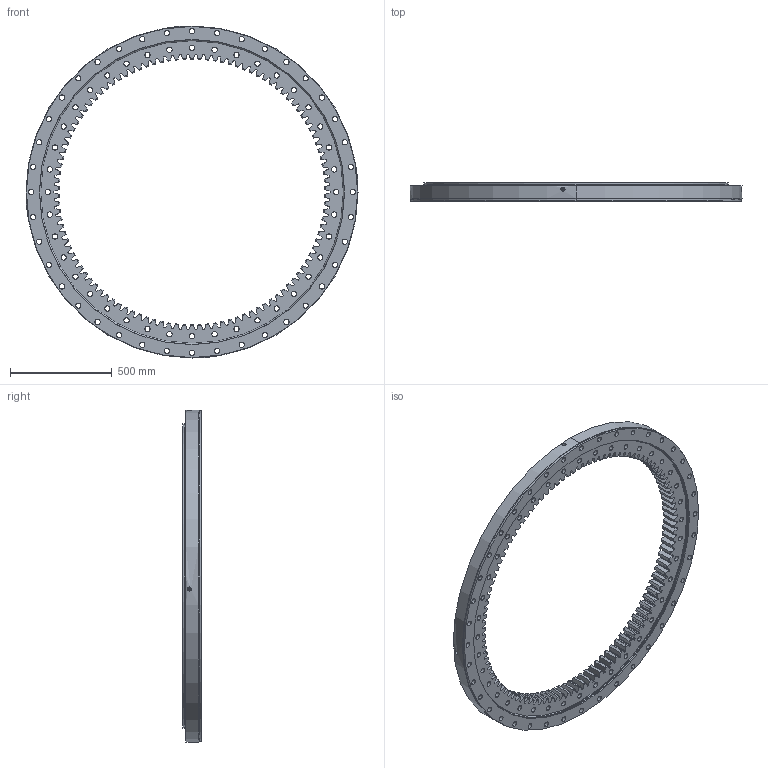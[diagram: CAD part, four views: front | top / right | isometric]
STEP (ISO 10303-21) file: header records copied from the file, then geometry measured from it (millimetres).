
FILE_DESCRIPTION (( 'STEP AP214' ), '1' );
FILE_NAME ('SM2130-1-1634AA.STEP', '2022-11-24T07:37:37', ( '' ), ( '' ), 'SwSTEP 2.0', 'SolidWorks 2020', '' );
FILE_SCHEMA (( 'AUTOMOTIVE_DESIGN' ));
Length unit declared in the file: millimetre
Products named in the file (1): SM2130-1-1634AA
Bounding box: 1634 x 90 x 1634 mm (x, y, z)
Volume: 49693895.1 mm3; surface area: 3965013.8 mm2
Topology: 4 solids, 4 shells, 1011 faces, 2952 edges, 1965 vertices
Faces by surface type: plane 464, cylinder 315, cone 232
Entity records: 34772 total; most frequent: CARTESIAN_POINT 7829, ORIENTED_EDGE 5904, DIRECTION 5275, EDGE_CURVE 2952, VERTEX_POINT 1965, AXIS2_PLACEMENT_3D 1869, LINE 1537, VECTOR 1537
